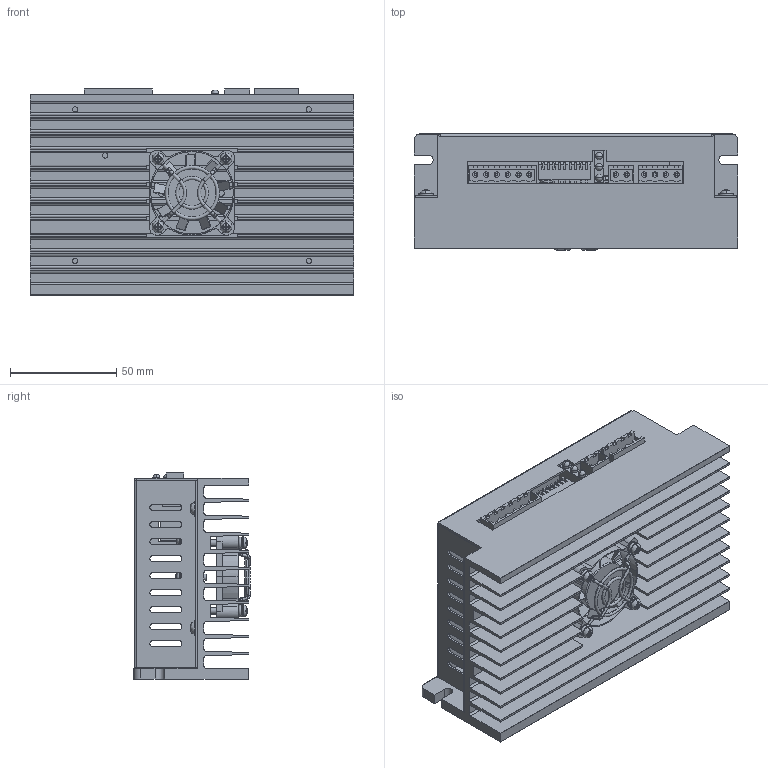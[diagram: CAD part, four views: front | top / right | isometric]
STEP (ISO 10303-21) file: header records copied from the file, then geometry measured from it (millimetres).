
FILE_DESCRIPTION((''),'2;1');
FILE_NAME('YKD2608MH-3DNG_ASM','2021-11-05T20:25:46',('Admin'),(''),'CREO PARAMETRIC BY PTC INC, 2020074','CREO PARAMETRIC BY PTC INC, 2020074','');
FILE_SCHEMA(('CONFIG_CONTROL_DESIGN'));
Length unit declared in the file: millimetre
Products named in the file (1): YKD2608MH-3DNG_ASM
Bounding box: 152.2 x 54.75 x 96.83 mm (x, y, z)
Volume: 204064.3 mm3; surface area: 183267.9 mm2
Topology: 1 solids, 10 shells, 1495 faces, 4029 edges, 2610 vertices
Faces by surface type: plane 917, cylinder 478, torus 42, sphere 36, bspline 22
Entity records: 48070 total; most frequent: CARTESIAN_POINT 9469, DIRECTION 8107, ORIENTED_EDGE 8018, EDGE_CURVE 4009, AXIS2_PLACEMENT_3D 2797, VERTEX_POINT 2610, VECTOR 2513, LINE 2513
